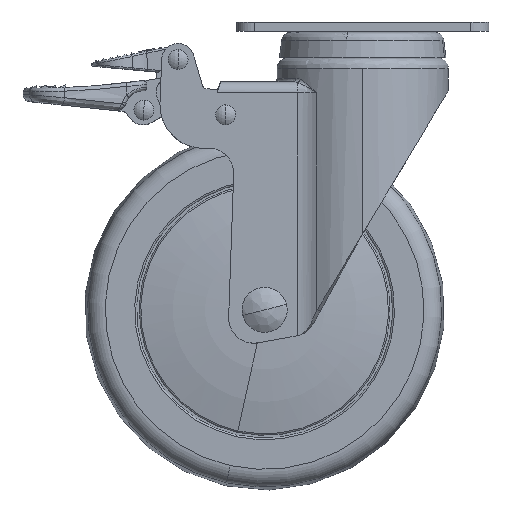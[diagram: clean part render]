
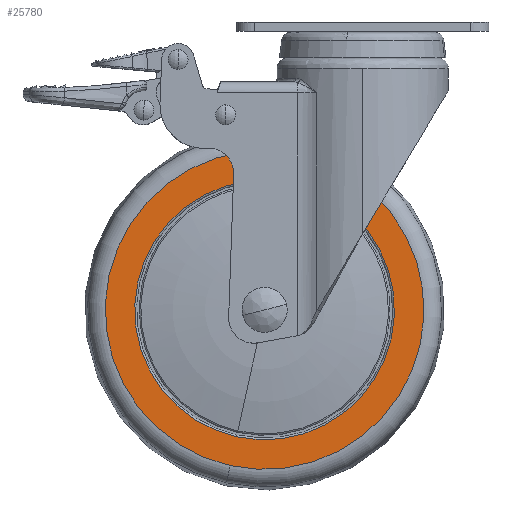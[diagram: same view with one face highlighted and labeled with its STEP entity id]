
A CAD part, top view. The second image highlights one B-rep face of the part: STEP entity #25780.
In plain terms, the highlighted planar face has unit normal (0, 0, 1).
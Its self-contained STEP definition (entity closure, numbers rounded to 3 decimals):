
#2457 = DIRECTION ( 'NONE',  ( 0., 0., -1. ) ) ;
#3546 = DIRECTION ( 'NONE',  ( 0., 0., -1. ) ) ;
#4226 = DIRECTION ( 'NONE',  ( 0., -1., 0. ) ) ;
#4566 = CARTESIAN_POINT ( 'NONE',  ( 0., 0., 12.5 ) ) ;
#4663 = CARTESIAN_POINT ( 'NONE',  ( 0., -36., 12.5 ) ) ;
#5130 = CARTESIAN_POINT ( 'NONE',  ( 0., 0., 12.5 ) ) ;
#5367 = EDGE_LOOP ( 'NONE', ( #38191, #67062 ) ) ;
#5712 = DIRECTION ( 'NONE',  ( 0., 0., -1. ) ) ;
#5914 = AXIS2_PLACEMENT_3D ( 'NONE', #4566, #3546, #93126 ) ;
#9756 = EDGE_CURVE ( 'NONE', #78208, #28260, #35167, .T. ) ;
#12245 = AXIS2_PLACEMENT_3D ( 'NONE', #94151, #101898, #4226 ) ;
#15028 = EDGE_LOOP ( 'NONE', ( #19729, #70280 ) ) ;
#18419 = EDGE_CURVE ( 'NONE', #51912, #49716, #77841, .T. ) ;
#18816 = AXIS2_PLACEMENT_3D ( 'NONE', #58117, #2457, #83551 ) ;
#19729 = ORIENTED_EDGE ( 'NONE', *, *, #66184, .T. ) ;
#21595 = PLANE ( 'NONE',  #12245 ) ;
#25780 = ADVANCED_FACE ( 'NONE', ( #56091, #68740 ), #21595, .T. ) ;
#28260 = VERTEX_POINT ( 'NONE', #52857 ) ;
#35167 = CIRCLE ( 'NONE', #18816, 44.187 ) ;
#38191 = ORIENTED_EDGE ( 'NONE', *, *, #54003, .F. ) ;
#39043 = DIRECTION ( 'NONE',  ( 0., 1., 0. ) ) ;
#45533 = CARTESIAN_POINT ( 'NONE',  ( 0., 36., 12.5 ) ) ;
#49716 = VERTEX_POINT ( 'NONE', #45533 ) ;
#51912 = VERTEX_POINT ( 'NONE', #4663 ) ;
#52857 = CARTESIAN_POINT ( 'NONE',  ( 0., 44.187, 12.5 ) ) ;
#54003 = EDGE_CURVE ( 'NONE', #28260, #78208, #76934, .T. ) ;
#56091 = FACE_BOUND ( 'NONE', #15028, .T. ) ;
#58117 = CARTESIAN_POINT ( 'NONE',  ( 0., 0., 12.5 ) ) ;
#59003 = AXIS2_PLACEMENT_3D ( 'NONE', #79693, #5712, #39043 ) ;
#62511 = DIRECTION ( 'NONE',  ( 0., 0., -1. ) ) ;
#66184 = EDGE_CURVE ( 'NONE', #49716, #51912, #69125, .T. ) ;
#67062 = ORIENTED_EDGE ( 'NONE', *, *, #9756, .F. ) ;
#68740 = FACE_OUTER_BOUND ( 'NONE', #5367, .T. ) ;
#69125 = CIRCLE ( 'NONE', #96355, 36. ) ;
#69886 = CARTESIAN_POINT ( 'NONE',  ( 0., -44.187, 12.5 ) ) ;
#70280 = ORIENTED_EDGE ( 'NONE', *, *, #18419, .T. ) ;
#76934 = CIRCLE ( 'NONE', #5914, 44.187 ) ;
#77841 = CIRCLE ( 'NONE', #59003, 36. ) ;
#78208 = VERTEX_POINT ( 'NONE', #69886 ) ;
#79693 = CARTESIAN_POINT ( 'NONE',  ( 0., 0., 12.5 ) ) ;
#83551 = DIRECTION ( 'NONE',  ( 0., 1., 0. ) ) ;
#86907 = DIRECTION ( 'NONE',  ( 0., 1., 0. ) ) ;
#93126 = DIRECTION ( 'NONE',  ( 0., 1., 0. ) ) ;
#94151 = CARTESIAN_POINT ( 'NONE',  ( 0., 36., 12.5 ) ) ;
#96355 = AXIS2_PLACEMENT_3D ( 'NONE', #5130, #62511, #86907 ) ;
#101898 = DIRECTION ( 'NONE',  ( 0., 0., 1. ) ) ;
